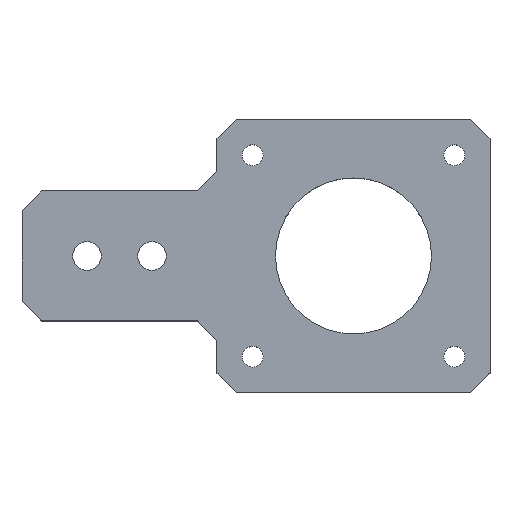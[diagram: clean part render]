
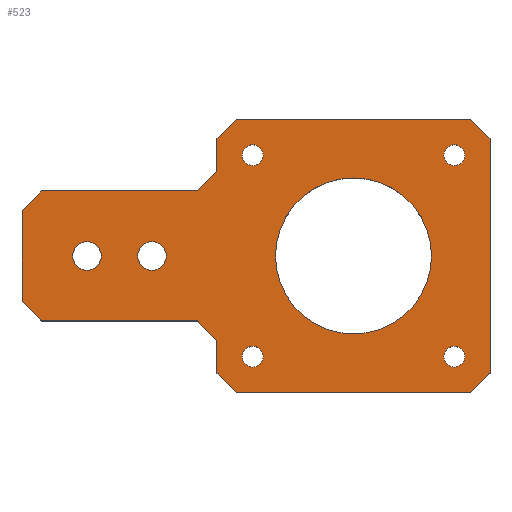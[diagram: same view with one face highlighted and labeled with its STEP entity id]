
A CAD part, top view. The second image highlights one B-rep face of the part: STEP entity #523.
In plain terms, the highlighted planar face has unit normal (0, 0, 1).
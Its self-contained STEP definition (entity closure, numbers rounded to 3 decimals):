
#26=FACE_BOUND('',#108,.T.);
#27=FACE_BOUND('',#109,.T.);
#28=FACE_BOUND('',#110,.T.);
#29=FACE_BOUND('',#111,.T.);
#30=FACE_BOUND('',#112,.T.);
#31=FACE_BOUND('',#113,.T.);
#32=FACE_BOUND('',#114,.T.);
#50=PLANE('',#577);
#75=FACE_OUTER_BOUND('',#107,.T.);
#107=EDGE_LOOP('',(#469,#470,#471,#472,#473,#474,#475,#476,#477,#478,#479,
#480,#481,#482,#483,#484));
#108=EDGE_LOOP('',(#485));
#109=EDGE_LOOP('',(#486));
#110=EDGE_LOOP('',(#487));
#111=EDGE_LOOP('',(#488));
#112=EDGE_LOOP('',(#489));
#113=EDGE_LOOP('',(#490));
#114=EDGE_LOOP('',(#491));
#123=LINE('',#763,#178);
#127=LINE('',#770,#182);
#130=LINE('',#778,#185);
#134=LINE('',#785,#189);
#135=LINE('',#788,#190);
#140=LINE('',#797,#195);
#151=LINE('',#822,#206);
#154=LINE('',#827,#209);
#156=LINE('',#830,#211);
#157=LINE('',#834,#212);
#160=LINE('',#838,#215);
#161=LINE('',#842,#216);
#164=LINE('',#847,#219);
#166=LINE('',#850,#221);
#168=LINE('',#856,#223);
#169=LINE('',#858,#224);
#178=VECTOR('',#629,10.);
#182=VECTOR('',#635,10.);
#185=VECTOR('',#640,10.);
#189=VECTOR('',#646,10.);
#190=VECTOR('',#649,10.);
#195=VECTOR('',#656,10.);
#206=VECTOR('',#673,10.);
#209=VECTOR('',#678,10.);
#211=VECTOR('',#682,10.);
#212=VECTOR('',#685,10.);
#215=VECTOR('',#690,10.);
#216=VECTOR('',#693,10.);
#219=VECTOR('',#698,10.);
#221=VECTOR('',#702,10.);
#223=VECTOR('',#710,10.);
#224=VECTOR('',#713,10.);
#225=CIRCLE('',#540,1.6);
#227=CIRCLE('',#543,1.6);
#229=CIRCLE('',#546,1.6);
#231=CIRCLE('',#549,2.2);
#233=CIRCLE('',#552,1.6);
#235=CIRCLE('',#555,2.2);
#238=CIRCLE('',#574,12.);
#239=VERTEX_POINT('',#721);
#241=VERTEX_POINT('',#727);
#243=VERTEX_POINT('',#733);
#245=VERTEX_POINT('',#739);
#247=VERTEX_POINT('',#745);
#249=VERTEX_POINT('',#751);
#253=VERTEX_POINT('',#760);
#254=VERTEX_POINT('',#762);
#256=VERTEX_POINT('',#768);
#259=VERTEX_POINT('',#775);
#260=VERTEX_POINT('',#777);
#262=VERTEX_POINT('',#783);
#263=VERTEX_POINT('',#787);
#266=VERTEX_POINT('',#795);
#276=VERTEX_POINT('',#820);
#277=VERTEX_POINT('',#821);
#278=VERTEX_POINT('',#826);
#279=VERTEX_POINT('',#832);
#280=VERTEX_POINT('',#833);
#281=VERTEX_POINT('',#840);
#282=VERTEX_POINT('',#841);
#283=VERTEX_POINT('',#846);
#284=VERTEX_POINT('',#852);
#285=EDGE_CURVE('',#239,#239,#225,.T.);
#288=EDGE_CURVE('',#241,#241,#227,.T.);
#291=EDGE_CURVE('',#243,#243,#229,.T.);
#294=EDGE_CURVE('',#245,#245,#231,.T.);
#297=EDGE_CURVE('',#247,#247,#233,.T.);
#300=EDGE_CURVE('',#249,#249,#235,.T.);
#305=EDGE_CURVE('',#253,#254,#123,.T.);
#309=EDGE_CURVE('',#253,#256,#127,.T.);
#312=EDGE_CURVE('',#259,#260,#130,.T.);
#316=EDGE_CURVE('',#259,#262,#134,.T.);
#317=EDGE_CURVE('',#263,#262,#135,.T.);
#322=EDGE_CURVE('',#263,#266,#140,.T.);
#334=EDGE_CURVE('',#276,#277,#151,.T.);
#337=EDGE_CURVE('',#278,#277,#154,.T.);
#339=EDGE_CURVE('',#278,#256,#156,.T.);
#340=EDGE_CURVE('',#279,#280,#157,.T.);
#343=EDGE_CURVE('',#279,#254,#160,.T.);
#344=EDGE_CURVE('',#281,#282,#161,.T.);
#347=EDGE_CURVE('',#283,#282,#164,.T.);
#349=EDGE_CURVE('',#283,#266,#166,.T.);
#350=EDGE_CURVE('',#284,#284,#238,.T.);
#352=EDGE_CURVE('',#281,#280,#168,.T.);
#353=EDGE_CURVE('',#276,#260,#169,.T.);
#469=ORIENTED_EDGE('',*,*,#317,.F.);
#470=ORIENTED_EDGE('',*,*,#322,.T.);
#471=ORIENTED_EDGE('',*,*,#349,.F.);
#472=ORIENTED_EDGE('',*,*,#347,.T.);
#473=ORIENTED_EDGE('',*,*,#344,.F.);
#474=ORIENTED_EDGE('',*,*,#352,.T.);
#475=ORIENTED_EDGE('',*,*,#340,.F.);
#476=ORIENTED_EDGE('',*,*,#343,.T.);
#477=ORIENTED_EDGE('',*,*,#305,.F.);
#478=ORIENTED_EDGE('',*,*,#309,.T.);
#479=ORIENTED_EDGE('',*,*,#339,.F.);
#480=ORIENTED_EDGE('',*,*,#337,.T.);
#481=ORIENTED_EDGE('',*,*,#334,.F.);
#482=ORIENTED_EDGE('',*,*,#353,.T.);
#483=ORIENTED_EDGE('',*,*,#312,.F.);
#484=ORIENTED_EDGE('',*,*,#316,.T.);
#485=ORIENTED_EDGE('',*,*,#285,.T.);
#486=ORIENTED_EDGE('',*,*,#288,.T.);
#487=ORIENTED_EDGE('',*,*,#291,.T.);
#488=ORIENTED_EDGE('',*,*,#294,.T.);
#489=ORIENTED_EDGE('',*,*,#297,.T.);
#490=ORIENTED_EDGE('',*,*,#300,.T.);
#491=ORIENTED_EDGE('',*,*,#350,.T.);
#523=ADVANCED_FACE('',(#75,#26,#27,#28,#29,#30,#31,#32),#50,.T.);
#540=AXIS2_PLACEMENT_3D('',#722,#585,#586);
#543=AXIS2_PLACEMENT_3D('',#728,#592,#593);
#546=AXIS2_PLACEMENT_3D('',#734,#599,#600);
#549=AXIS2_PLACEMENT_3D('',#740,#606,#607);
#552=AXIS2_PLACEMENT_3D('',#746,#613,#614);
#555=AXIS2_PLACEMENT_3D('',#752,#620,#621);
#574=AXIS2_PLACEMENT_3D('',#853,#705,#706);
#577=AXIS2_PLACEMENT_3D('',#859,#714,#715);
#585=DIRECTION('center_axis',(0.,0.,-1.));
#586=DIRECTION('ref_axis',(-1.,0.,0.));
#592=DIRECTION('center_axis',(0.,0.,-1.));
#593=DIRECTION('ref_axis',(-1.,0.,0.));
#599=DIRECTION('center_axis',(0.,0.,-1.));
#600=DIRECTION('ref_axis',(-1.,0.,0.));
#606=DIRECTION('center_axis',(0.,0.,-1.));
#607=DIRECTION('ref_axis',(-1.,0.,0.));
#613=DIRECTION('center_axis',(0.,0.,-1.));
#614=DIRECTION('ref_axis',(-1.,0.,0.));
#620=DIRECTION('center_axis',(0.,0.,-1.));
#621=DIRECTION('ref_axis',(-1.,0.,0.));
#629=DIRECTION('',(0.707,0.707,0.));
#635=DIRECTION('',(-1.,0.,0.));
#640=DIRECTION('',(-0.707,0.707,0.));
#646=DIRECTION('',(0.,-1.,0.));
#649=DIRECTION('',(-0.707,0.707,0.));
#656=DIRECTION('',(1.,0.,0.));
#673=DIRECTION('',(-0.707,0.707,0.));
#678=DIRECTION('',(0.,-1.,0.));
#682=DIRECTION('',(0.707,0.707,0.));
#685=DIRECTION('',(0.707,0.707,0.));
#690=DIRECTION('',(0.,-1.,0.));
#693=DIRECTION('',(0.707,-0.707,0.));
#698=DIRECTION('',(0.,1.,0.));
#702=DIRECTION('',(-0.707,-0.707,0.));
#705=DIRECTION('center_axis',(0.,0.,-1.));
#706=DIRECTION('ref_axis',(1.,0.,0.));
#710=DIRECTION('',(-1.,0.,0.));
#713=DIRECTION('',(1.,0.,0.));
#714=DIRECTION('center_axis',(0.,0.,1.));
#715=DIRECTION('ref_axis',(1.,0.,0.));
#721=CARTESIAN_POINT('',(-13.9,15.5,4.));
#722=CARTESIAN_POINT('Origin',(-15.5,15.5,4.));
#727=CARTESIAN_POINT('',(17.1,-15.5,4.));
#728=CARTESIAN_POINT('Origin',(15.5,-15.5,4.));
#733=CARTESIAN_POINT('',(17.1,15.5,4.));
#734=CARTESIAN_POINT('Origin',(15.5,15.5,4.));
#739=CARTESIAN_POINT('',(-28.8,0.,4.));
#740=CARTESIAN_POINT('Origin',(-31.,0.,4.));
#745=CARTESIAN_POINT('',(-13.9,-15.5,4.));
#746=CARTESIAN_POINT('Origin',(-15.5,-15.5,4.));
#751=CARTESIAN_POINT('',(-38.8,0.,4.));
#752=CARTESIAN_POINT('Origin',(-41.,0.,4.));
#760=CARTESIAN_POINT('',(-24.,10.,4.));
#762=CARTESIAN_POINT('',(-21.,13.,4.));
#763=CARTESIAN_POINT('',(-23.5,10.5,4.));
#768=CARTESIAN_POINT('',(-48.,10.,4.));
#770=CARTESIAN_POINT('',(-21.,10.,4.));
#775=CARTESIAN_POINT('',(-21.,-13.,4.));
#777=CARTESIAN_POINT('',(-24.,-10.,4.));
#778=CARTESIAN_POINT('',(-23.5,-10.5,4.));
#783=CARTESIAN_POINT('',(-21.,-18.,4.));
#785=CARTESIAN_POINT('',(-21.,-21.,4.));
#787=CARTESIAN_POINT('',(-18.,-21.,4.));
#788=CARTESIAN_POINT('',(-23.25,-15.75,4.));
#795=CARTESIAN_POINT('',(18.,-21.,4.));
#797=CARTESIAN_POINT('',(21.,-21.,4.));
#820=CARTESIAN_POINT('',(-48.,-10.,4.));
#821=CARTESIAN_POINT('',(-51.,-7.,4.));
#822=CARTESIAN_POINT('',(-43.,-15.,4.));
#826=CARTESIAN_POINT('',(-51.,7.,4.));
#827=CARTESIAN_POINT('',(-51.,10.,4.));
#830=CARTESIAN_POINT('',(-43.,15.,4.));
#832=CARTESIAN_POINT('',(-21.,18.,4.));
#833=CARTESIAN_POINT('',(-18.,21.,4.));
#834=CARTESIAN_POINT('',(-23.25,15.75,4.));
#838=CARTESIAN_POINT('',(-21.,10.,4.));
#840=CARTESIAN_POINT('',(18.,21.,4.));
#841=CARTESIAN_POINT('',(21.,18.,4.));
#842=CARTESIAN_POINT('',(15.75,23.25,4.));
#846=CARTESIAN_POINT('',(21.,-18.,4.));
#847=CARTESIAN_POINT('',(21.,21.,4.));
#850=CARTESIAN_POINT('',(15.75,-23.25,4.));
#852=CARTESIAN_POINT('',(-12.,0.,4.));
#853=CARTESIAN_POINT('Origin',(0.,0.,4.));
#856=CARTESIAN_POINT('',(-21.,21.,4.));
#858=CARTESIAN_POINT('',(-51.,-10.,4.));
#859=CARTESIAN_POINT('Origin',(-15.,0.,4.));
